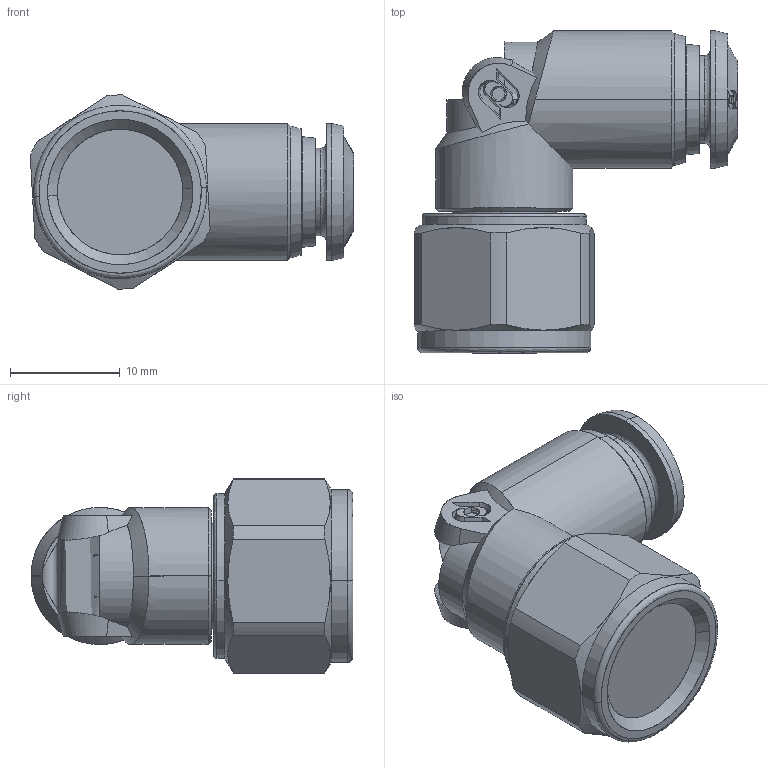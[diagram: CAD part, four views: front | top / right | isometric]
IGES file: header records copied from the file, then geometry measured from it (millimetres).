
Start section: SolidWorks IGES file using analytic representation for surfaces
Global section: file name: K:\Disegni Esecutivi\Serie 50000\ASSIEMI_50000\50106\ASSIEMI_.IGES_50106\5010600004B.IGS; native system: SolidWorks 2009; preprocessor: SolidWorks 2009; author: cad05; date: 090702.140351; units: millimetre
Bounding box: 29.5 x 29.35 x 17.69 mm (x, y, z)
Surface area: 2567.6 mm2 (no closed solid volume)
Topology: 0 solids, 0 shells, 199 faces, 2449 edges, 2448 vertices
Faces by surface type: bspline 107, revolution 92
